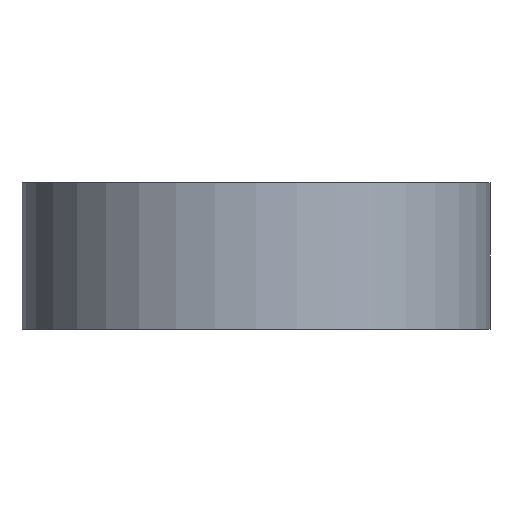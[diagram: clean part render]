
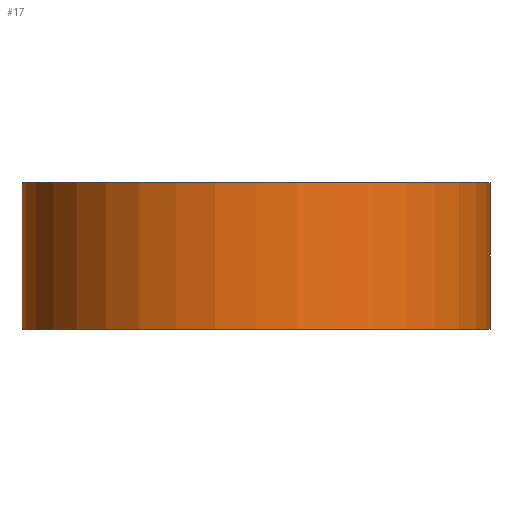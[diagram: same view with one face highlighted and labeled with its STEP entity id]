
A CAD part, front view. The second image highlights one B-rep face of the part: STEP entity #17.
In plain terms, the highlighted cylindrical face has radius 128 mm (diameter 256 mm), a full revolution.
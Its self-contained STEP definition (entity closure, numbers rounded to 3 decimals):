
#17 = ADVANCED_FACE('',(#18),#32,.T.);
#18 = FACE_BOUND('',#19,.T.);
#19 = EDGE_LOOP('',(#20,#50,#81,#82));
#20 = ORIENTED_EDGE('',*,*,#21,.T.);
#21 = EDGE_CURVE('',#22,#24,#26,.T.);
#22 = VERTEX_POINT('',#23);
#23 = CARTESIAN_POINT('',(-128.,0.,0.));
#24 = VERTEX_POINT('',#25);
#25 = CARTESIAN_POINT('',(-128.,0.,80.));
#26 = SEAM_CURVE('',#27,(#31,#43),.PCURVE_S1.);
#27 = LINE('',#28,#29);
#28 = CARTESIAN_POINT('',(-128.,0.,0.));
#29 = VECTOR('',#30,1.);
#30 = DIRECTION('',(-0.,-0.,1.));
#31 = PCURVE('',#32,#37);
#32 = CYLINDRICAL_SURFACE('',#33,128.);
#33 = AXIS2_PLACEMENT_3D('',#34,#35,#36);
#34 = CARTESIAN_POINT('',(0.,0.,0.));
#35 = DIRECTION('',(0.,-0.,-1.));
#36 = DIRECTION('',(-1.,-0.,-0.));
#37 = DEFINITIONAL_REPRESENTATION('',(#38),#42);
#38 = LINE('',#39,#40);
#39 = CARTESIAN_POINT('',(0.,0.));
#40 = VECTOR('',#41,1.);
#41 = DIRECTION('',(0.,-1.));
#42 = ( GEOMETRIC_REPRESENTATION_CONTEXT(2) 
PARAMETRIC_REPRESENTATION_CONTEXT() REPRESENTATION_CONTEXT('2D SPACE',''
  ) );
#43 = PCURVE('',#32,#44);
#44 = DEFINITIONAL_REPRESENTATION('',(#45),#49);
#45 = LINE('',#46,#47);
#46 = CARTESIAN_POINT('',(6.283,0.));
#47 = VECTOR('',#48,1.);
#48 = DIRECTION('',(0.,-1.));
#49 = ( GEOMETRIC_REPRESENTATION_CONTEXT(2) 
PARAMETRIC_REPRESENTATION_CONTEXT() REPRESENTATION_CONTEXT('2D SPACE',''
  ) );
#50 = ORIENTED_EDGE('',*,*,#51,.T.);
#51 = EDGE_CURVE('',#24,#24,#52,.T.);
#52 = SURFACE_CURVE('',#53,(#58,#65),.PCURVE_S1.);
#53 = CIRCLE('',#54,128.);
#54 = AXIS2_PLACEMENT_3D('',#55,#56,#57);
#55 = CARTESIAN_POINT('',(0.,0.,80.));
#56 = DIRECTION('',(0.,0.,-1.));
#57 = DIRECTION('',(-1.,-0.,-0.));
#58 = PCURVE('',#32,#59);
#59 = DEFINITIONAL_REPRESENTATION('',(#60),#64);
#60 = LINE('',#61,#62);
#61 = CARTESIAN_POINT('',(0.,-80.));
#62 = VECTOR('',#63,1.);
#63 = DIRECTION('',(1.,0.));
#64 = ( GEOMETRIC_REPRESENTATION_CONTEXT(2) 
PARAMETRIC_REPRESENTATION_CONTEXT() REPRESENTATION_CONTEXT('2D SPACE',''
  ) );
#65 = PCURVE('',#66,#71);
#66 = PLANE('',#67);
#67 = AXIS2_PLACEMENT_3D('',#68,#69,#70);
#68 = CARTESIAN_POINT('',(0.,0.,80.));
#69 = DIRECTION('',(-0.,-0.,1.));
#70 = DIRECTION('',(1.,0.,0.));
#71 = DEFINITIONAL_REPRESENTATION('',(#72),#80);
#72 = ( BOUNDED_CURVE() B_SPLINE_CURVE(2,(#73,#74,#75,#76,#77,#78,#79),
.UNSPECIFIED.,.T.,.F.) B_SPLINE_CURVE_WITH_KNOTS((1,2,2,2,2,1),(
    -2.094,0.,2.094,4.189,6.283,
8.378),.UNSPECIFIED.) CURVE() GEOMETRIC_REPRESENTATION_ITEM() 
RATIONAL_B_SPLINE_CURVE((1.,0.5,1.,0.5,1.,0.5,1.)) REPRESENTATION_ITEM(
  '') );
#73 = CARTESIAN_POINT('',(-128.,0.));
#74 = CARTESIAN_POINT('',(-128.,221.703));
#75 = CARTESIAN_POINT('',(64.,110.851));
#76 = CARTESIAN_POINT('',(256.,0.));
#77 = CARTESIAN_POINT('',(64.,-110.851));
#78 = CARTESIAN_POINT('',(-128.,-221.703));
#79 = CARTESIAN_POINT('',(-128.,0.));
#80 = ( GEOMETRIC_REPRESENTATION_CONTEXT(2) 
PARAMETRIC_REPRESENTATION_CONTEXT() REPRESENTATION_CONTEXT('2D SPACE',''
  ) );
#81 = ORIENTED_EDGE('',*,*,#21,.F.);
#82 = ORIENTED_EDGE('',*,*,#83,.F.);
#83 = EDGE_CURVE('',#22,#22,#84,.T.);
#84 = SURFACE_CURVE('',#85,(#90,#97),.PCURVE_S1.);
#85 = CIRCLE('',#86,128.);
#86 = AXIS2_PLACEMENT_3D('',#87,#88,#89);
#87 = CARTESIAN_POINT('',(0.,0.,0.));
#88 = DIRECTION('',(0.,0.,-1.));
#89 = DIRECTION('',(-1.,-0.,-0.));
#90 = PCURVE('',#32,#91);
#91 = DEFINITIONAL_REPRESENTATION('',(#92),#96);
#92 = LINE('',#93,#94);
#93 = CARTESIAN_POINT('',(0.,0.));
#94 = VECTOR('',#95,1.);
#95 = DIRECTION('',(1.,0.));
#96 = ( GEOMETRIC_REPRESENTATION_CONTEXT(2) 
PARAMETRIC_REPRESENTATION_CONTEXT() REPRESENTATION_CONTEXT('2D SPACE',''
  ) );
#97 = PCURVE('',#98,#103);
#98 = PLANE('',#99);
#99 = AXIS2_PLACEMENT_3D('',#100,#101,#102);
#100 = CARTESIAN_POINT('',(0.,0.,0.));
#101 = DIRECTION('',(-0.,-0.,1.));
#102 = DIRECTION('',(1.,0.,0.));
#103 = DEFINITIONAL_REPRESENTATION('',(#104),#112);
#104 = ( BOUNDED_CURVE() B_SPLINE_CURVE(2,(#105,#106,#107,#108,#109,#110
,#111),.UNSPECIFIED.,.T.,.F.) B_SPLINE_CURVE_WITH_KNOTS((1,2,2,2,2,1),(
    -2.094,0.,2.094,4.189,6.283,
8.378),.UNSPECIFIED.) CURVE() GEOMETRIC_REPRESENTATION_ITEM() 
RATIONAL_B_SPLINE_CURVE((1.,0.5,1.,0.5,1.,0.5,1.)) REPRESENTATION_ITEM(
  '') );
#105 = CARTESIAN_POINT('',(-128.,0.));
#106 = CARTESIAN_POINT('',(-128.,221.703));
#107 = CARTESIAN_POINT('',(64.,110.851));
#108 = CARTESIAN_POINT('',(256.,0.));
#109 = CARTESIAN_POINT('',(64.,-110.851));
#110 = CARTESIAN_POINT('',(-128.,-221.703));
#111 = CARTESIAN_POINT('',(-128.,0.));
#112 = ( GEOMETRIC_REPRESENTATION_CONTEXT(2) 
PARAMETRIC_REPRESENTATION_CONTEXT() REPRESENTATION_CONTEXT('2D SPACE',''
  ) );
